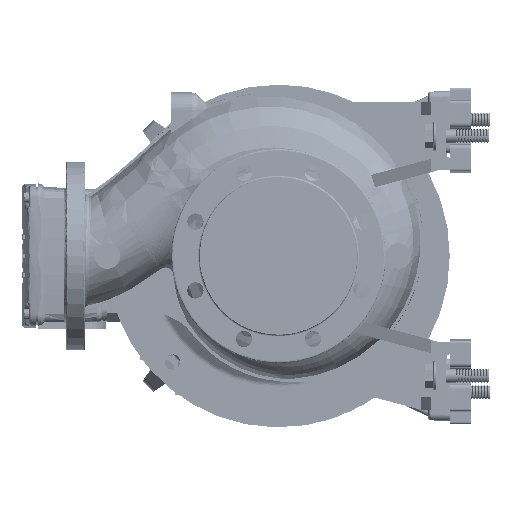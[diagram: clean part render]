
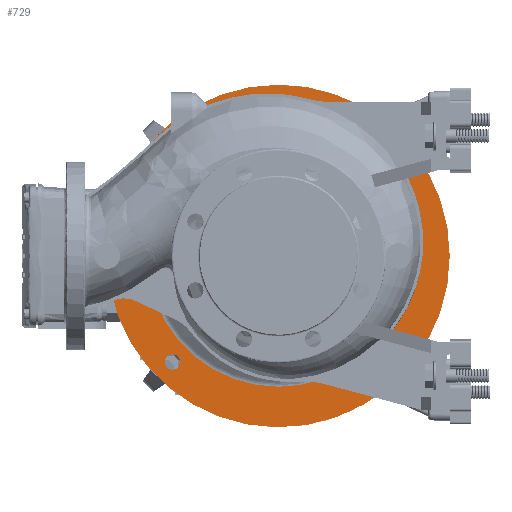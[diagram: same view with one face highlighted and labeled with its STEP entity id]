
A CAD part, left-side view. The second image highlights one B-rep face of the part: STEP entity #729.
In plain terms, the highlighted planar face has unit normal (-1, 0, 0).
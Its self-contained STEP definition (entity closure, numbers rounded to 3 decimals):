
#729 = ADVANCED_FACE ( 'NONE', ( #160493, #184313, #44428, #202233, #2730, #248313 ), #111391, .T. ) ;
#2635 = EDGE_LOOP ( 'NONE', ( #85776, #234737 ) ) ;
#2730 = FACE_BOUND ( 'NONE', #269188, .T. ) ;
#5526 = EDGE_CURVE ( 'NONE', #146081, #217314, #134480, .T. ) ;
#6197 = AXIS2_PLACEMENT_3D ( 'NONE', #64363, #225098, #62897 ) ;
#6731 = AXIS2_PLACEMENT_3D ( 'NONE', #105955, #283178, #126844 ) ;
#7162 = AXIS2_PLACEMENT_3D ( 'NONE', #261961, #239639, #168246 ) ;
#9009 = CIRCLE ( 'NONE', #23188, 9. ) ;
#13638 = ORIENTED_EDGE ( 'NONE', *, *, #264309, .T. ) ;
#17188 = EDGE_LOOP ( 'NONE', ( #196804, #143804 ) ) ;
#18905 = DIRECTION ( 'NONE',  ( 1., 0., 0. ) ) ;
#23188 = AXIS2_PLACEMENT_3D ( 'NONE', #149874, #285303, #151348 ) ;
#30969 = CARTESIAN_POINT ( 'NONE',  ( 249., -123.744, 114.745 ) ) ;
#35863 = AXIS2_PLACEMENT_3D ( 'NONE', #130567, #18905, #221364 ) ;
#35885 = DIRECTION ( 'NONE',  ( 0., 0., -1. ) ) ;
#36975 = EDGE_CURVE ( 'NONE', #215727, #56423, #145067, .T. ) ;
#39682 = ORIENTED_EDGE ( 'NONE', *, *, #196667, .T. ) ;
#42120 = AXIS2_PLACEMENT_3D ( 'NONE', #93573, #275197, #53325 ) ;
#44428 = FACE_BOUND ( 'NONE', #157616, .T. ) ;
#45175 = ORIENTED_EDGE ( 'NONE', *, *, #156344, .T. ) ;
#46294 = CARTESIAN_POINT ( 'NONE',  ( 249., 0., 0.001 ) ) ;
#52556 = ORIENTED_EDGE ( 'NONE', *, *, #125446, .T. ) ;
#53325 = DIRECTION ( 'NONE',  ( 0., 0., -1. ) ) ;
#54375 = CIRCLE ( 'NONE', #220734, 9. ) ;
#56423 = VERTEX_POINT ( 'NONE', #101029 ) ;
#57604 = AXIS2_PLACEMENT_3D ( 'NONE', #210733, #115486, #206321 ) ;
#59796 = VERTEX_POINT ( 'NONE', #147687 ) ;
#60999 = CARTESIAN_POINT ( 'NONE',  ( 249., -123.744, 132.745 ) ) ;
#61131 = DIRECTION ( 'NONE',  ( 0., 0., 1. ) ) ;
#61321 = EDGE_CURVE ( 'NONE', #175732, #205387, #100394, .T. ) ;
#62431 = DIRECTION ( 'NONE',  ( 1., 0., 0. ) ) ;
#62897 = DIRECTION ( 'NONE',  ( 0., 0., 1. ) ) ;
#64363 = CARTESIAN_POINT ( 'NONE',  ( 249., 123.744, -123.743 ) ) ;
#65975 = VERTEX_POINT ( 'NONE', #255201 ) ;
#68702 = CIRCLE ( 'NONE', #7162, 152.679 ) ;
#72637 = EDGE_CURVE ( 'NONE', #144415, #223696, #54375, .T. ) ;
#78313 = VERTEX_POINT ( 'NONE', #184951 ) ;
#80033 = AXIS2_PLACEMENT_3D ( 'NONE', #288842, #107248, #35885 ) ;
#80442 = EDGE_CURVE ( 'NONE', #246915, #65975, #293980, .T. ) ;
#85522 = EDGE_CURVE ( 'NONE', #223696, #144415, #169801, .T. ) ;
#85776 = ORIENTED_EDGE ( 'NONE', *, *, #72637, .T. ) ;
#92742 = AXIS2_PLACEMENT_3D ( 'NONE', #265064, #149009, #61131 ) ;
#93573 = CARTESIAN_POINT ( 'NONE',  ( 249., 0., 0.001 ) ) ;
#100394 = CIRCLE ( 'NONE', #266759, 23.5 ) ;
#101029 = CARTESIAN_POINT ( 'NONE',  ( 249., 123.744, 114.745 ) ) ;
#104504 = CARTESIAN_POINT ( 'NONE',  ( 249., -151.792, 16.439 ) ) ;
#105955 = CARTESIAN_POINT ( 'NONE',  ( 249., -123.744, -123.743 ) ) ;
#106553 = AXIS2_PLACEMENT_3D ( 'NONE', #270827, #272292, #151847 ) ;
#107248 = DIRECTION ( 'NONE',  ( 1., 0., 0. ) ) ;
#111391 = PLANE ( 'NONE',  #206551 ) ;
#112660 = EDGE_LOOP ( 'NONE', ( #45175, #278639 ) ) ;
#113475 = DIRECTION ( 'NONE',  ( 1., 0., 0. ) ) ;
#115291 = CARTESIAN_POINT ( 'NONE',  ( 249., 0., 200.001 ) ) ;
#115486 = DIRECTION ( 'NONE',  ( 1., 0., 0. ) ) ;
#115564 = CARTESIAN_POINT ( 'NONE',  ( 249., 0., -152.678 ) ) ;
#125446 = EDGE_CURVE ( 'NONE', #273177, #78313, #291834, .T. ) ;
#126844 = DIRECTION ( 'NONE',  ( 0., 0., 1. ) ) ;
#129427 = DIRECTION ( 'NONE',  ( 0., 0., 1. ) ) ;
#129445 = EDGE_CURVE ( 'NONE', #78313, #175732, #68702, .T. ) ;
#130567 = CARTESIAN_POINT ( 'NONE',  ( 249., -123.744, -123.743 ) ) ;
#130884 = ORIENTED_EDGE ( 'NONE', *, *, #224253, .T. ) ;
#134480 = CIRCLE ( 'NONE', #6197, 9. ) ;
#135215 = CARTESIAN_POINT ( 'NONE',  ( 249., 200., 0.001 ) ) ;
#137081 = DIRECTION ( 'NONE',  ( 1., 0., 0. ) ) ;
#138157 = DIRECTION ( 'NONE',  ( -1., 0., 0. ) ) ;
#139550 = EDGE_CURVE ( 'NONE', #65975, #246915, #260736, .T. ) ;
#143804 = ORIENTED_EDGE ( 'NONE', *, *, #80442, .F. ) ;
#144415 = VERTEX_POINT ( 'NONE', #30969 ) ;
#145067 = CIRCLE ( 'NONE', #92742, 9. ) ;
#145445 = DIRECTION ( 'NONE',  ( 1., 0., 0. ) ) ;
#146081 = VERTEX_POINT ( 'NONE', #244886 ) ;
#147687 = CARTESIAN_POINT ( 'NONE',  ( 249., -123.744, -132.743 ) ) ;
#149009 = DIRECTION ( 'NONE',  ( 1., 0., 0. ) ) ;
#149874 = CARTESIAN_POINT ( 'NONE',  ( 249., 123.744, 123.745 ) ) ;
#151348 = DIRECTION ( 'NONE',  ( 0., 0., 1. ) ) ;
#151847 = DIRECTION ( 'NONE',  ( 0., 0., -1. ) ) ;
#152910 = EDGE_CURVE ( 'NONE', #56423, #215727, #9009, .T. ) ;
#156344 = EDGE_CURVE ( 'NONE', #217314, #146081, #195510, .T. ) ;
#157616 = EDGE_LOOP ( 'NONE', ( #194307, #263751 ) ) ;
#157787 = CIRCLE ( 'NONE', #228536, 152.679 ) ;
#160493 = FACE_OUTER_BOUND ( 'NONE', #17188, .T. ) ;
#168246 = DIRECTION ( 'NONE',  ( 0., 0., -1. ) ) ;
#169233 = DIRECTION ( 'NONE',  ( 0., 0., 1. ) ) ;
#169801 = CIRCLE ( 'NONE', #184071, 9. ) ;
#175732 = VERTEX_POINT ( 'NONE', #104504 ) ;
#180305 = CARTESIAN_POINT ( 'NONE',  ( 249., -151.792, -16.437 ) ) ;
#181326 = CARTESIAN_POINT ( 'NONE',  ( 249., 123.744, 132.745 ) ) ;
#181501 = CARTESIAN_POINT ( 'NONE',  ( 249., -123.744, -114.743 ) ) ;
#184071 = AXIS2_PLACEMENT_3D ( 'NONE', #290663, #113475, #201366 ) ;
#184313 = FACE_BOUND ( 'NONE', #112660, .T. ) ;
#184951 = CARTESIAN_POINT ( 'NONE',  ( 249., 0., 152.681 ) ) ;
#194307 = ORIENTED_EDGE ( 'NONE', *, *, #152910, .T. ) ;
#194536 = EDGE_LOOP ( 'NONE', ( #39682, #52556, #278257, #247450 ) ) ;
#195510 = CIRCLE ( 'NONE', #57604, 9. ) ;
#196667 = EDGE_CURVE ( 'NONE', #205387, #273177, #157787, .T. ) ;
#196804 = ORIENTED_EDGE ( 'NONE', *, *, #139550, .F. ) ;
#201366 = DIRECTION ( 'NONE',  ( 0., 0., 1. ) ) ;
#202233 = FACE_BOUND ( 'NONE', #2635, .T. ) ;
#202554 = CARTESIAN_POINT ( 'NONE',  ( 249., 123.744, -132.743 ) ) ;
#205387 = VERTEX_POINT ( 'NONE', #180305 ) ;
#206321 = DIRECTION ( 'NONE',  ( 0., 0., 1. ) ) ;
#206551 = AXIS2_PLACEMENT_3D ( 'NONE', #135215, #138157, #270677 ) ;
#210733 = CARTESIAN_POINT ( 'NONE',  ( 249., 123.744, -123.743 ) ) ;
#215727 = VERTEX_POINT ( 'NONE', #181326 ) ;
#217314 = VERTEX_POINT ( 'NONE', #202554 ) ;
#220734 = AXIS2_PLACEMENT_3D ( 'NONE', #221698, #62431, #129427 ) ;
#221364 = DIRECTION ( 'NONE',  ( 0., 0., 1. ) ) ;
#221698 = CARTESIAN_POINT ( 'NONE',  ( 249., -123.744, 123.745 ) ) ;
#223696 = VERTEX_POINT ( 'NONE', #60999 ) ;
#224253 = EDGE_CURVE ( 'NONE', #59796, #248431, #244953, .T. ) ;
#225098 = DIRECTION ( 'NONE',  ( 1., 0., 0. ) ) ;
#228536 = AXIS2_PLACEMENT_3D ( 'NONE', #46294, #137081, #250189 ) ;
#234737 = ORIENTED_EDGE ( 'NONE', *, *, #85522, .T. ) ;
#239639 = DIRECTION ( 'NONE',  ( 1., 0., 0. ) ) ;
#244445 = CIRCLE ( 'NONE', #6731, 9. ) ;
#244886 = CARTESIAN_POINT ( 'NONE',  ( 249., 123.744, -114.743 ) ) ;
#244953 = CIRCLE ( 'NONE', #35863, 9. ) ;
#246915 = VERTEX_POINT ( 'NONE', #115291 ) ;
#247450 = ORIENTED_EDGE ( 'NONE', *, *, #61321, .T. ) ;
#248313 = FACE_BOUND ( 'NONE', #194536, .T. ) ;
#248431 = VERTEX_POINT ( 'NONE', #181501 ) ;
#250189 = DIRECTION ( 'NONE',  ( 0., 0., -1. ) ) ;
#255201 = CARTESIAN_POINT ( 'NONE',  ( 249., 0., -199.999 ) ) ;
#260736 = CIRCLE ( 'NONE', #42120, 200. ) ;
#261961 = CARTESIAN_POINT ( 'NONE',  ( 249., 0., 0.001 ) ) ;
#263751 = ORIENTED_EDGE ( 'NONE', *, *, #36975, .T. ) ;
#264309 = EDGE_CURVE ( 'NONE', #248431, #59796, #244445, .T. ) ;
#265064 = CARTESIAN_POINT ( 'NONE',  ( 249., 123.744, 123.745 ) ) ;
#266759 = AXIS2_PLACEMENT_3D ( 'NONE', #276495, #145445, #169233 ) ;
#269188 = EDGE_LOOP ( 'NONE', ( #130884, #13638 ) ) ;
#270677 = DIRECTION ( 'NONE',  ( 0., 0., 1. ) ) ;
#270827 = CARTESIAN_POINT ( 'NONE',  ( 249., 0., 0.001 ) ) ;
#272292 = DIRECTION ( 'NONE',  ( 1., 0., 0. ) ) ;
#273177 = VERTEX_POINT ( 'NONE', #115564 ) ;
#275197 = DIRECTION ( 'NONE',  ( 1., 0., 0. ) ) ;
#276495 = CARTESIAN_POINT ( 'NONE',  ( 249., -134.998, 0.001 ) ) ;
#278257 = ORIENTED_EDGE ( 'NONE', *, *, #129445, .T. ) ;
#278639 = ORIENTED_EDGE ( 'NONE', *, *, #5526, .T. ) ;
#283178 = DIRECTION ( 'NONE',  ( 1., 0., 0. ) ) ;
#285303 = DIRECTION ( 'NONE',  ( 1., 0., 0. ) ) ;
#288842 = CARTESIAN_POINT ( 'NONE',  ( 249., 0., 0.001 ) ) ;
#290663 = CARTESIAN_POINT ( 'NONE',  ( 249., -123.744, 123.745 ) ) ;
#291834 = CIRCLE ( 'NONE', #106553, 152.679 ) ;
#293980 = CIRCLE ( 'NONE', #80033, 200. ) ;
